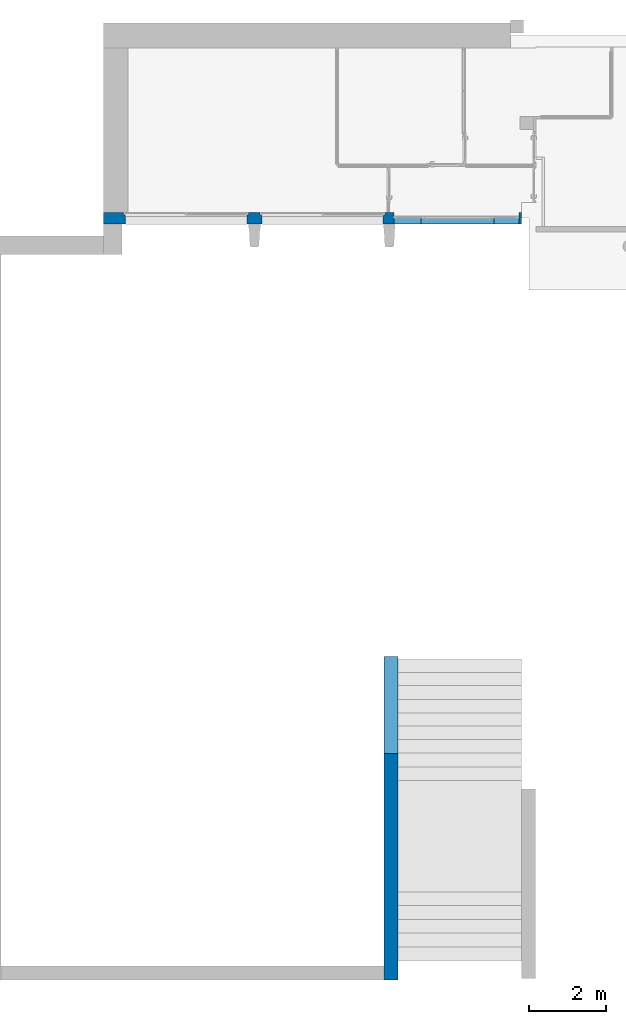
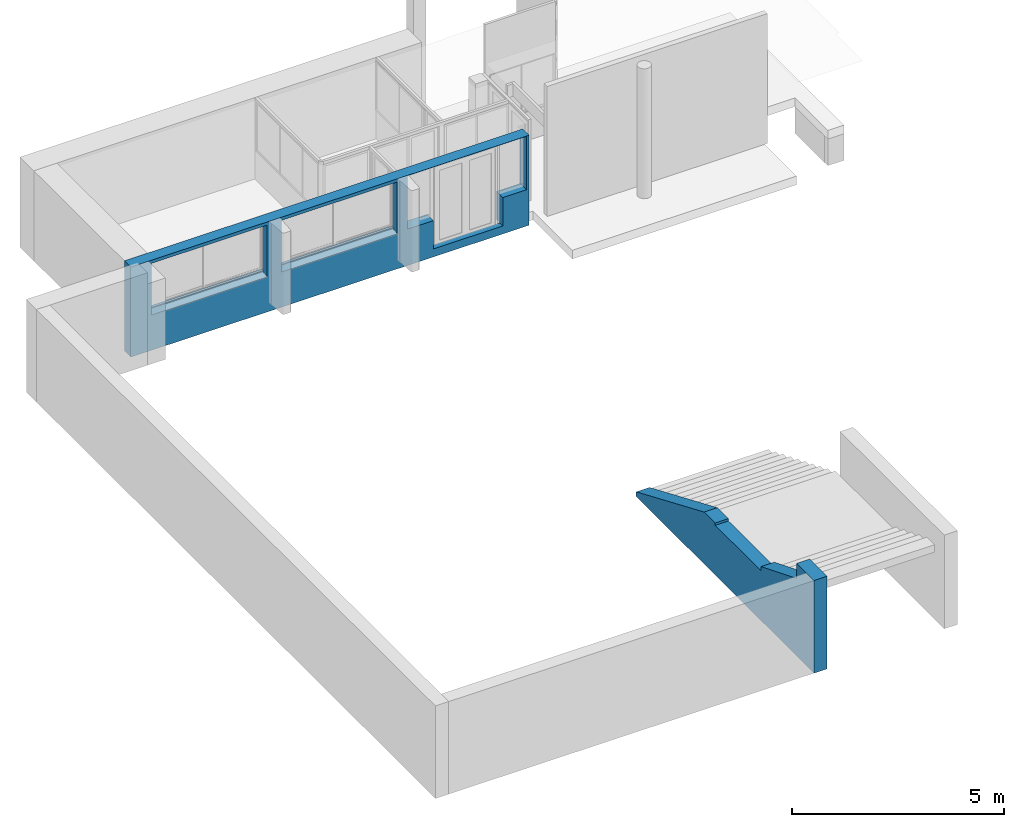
# One storey, part 10 of 19: 2 walls, 1 opening.
"""IFC4 building model written with IfcOpenShell, lengths in metres."""

from ifc_helpers import new_model, entity, si_unit, converted_unit, derived_unit, direction, frame, origin, place, context, subcontext, project, spatial, indexed_curve, outline, extrude, polygons, material, layer, layer_set, type_object, element, save


model = new_model("IFC4")

# Units and contexts
model_context = context("Model", 3, precision=1e-05, world=origin(), true_north=direction((6.12303176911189e-17, 1.0)))
body_context = subcontext(model_context, "Body", "Model", "MODEL_VIEW")
ifc_project = project(units=[si_unit("LENGTHUNIT", "METRE"), si_unit("AREAUNIT", "SQUARE_METRE"), si_unit("VOLUMEUNIT", "CUBIC_METRE"), converted_unit("PLANEANGLEUNIT", "DEGREE", entity("IfcRatioMeasure", 0.0174532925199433), si_unit("PLANEANGLEUNIT", "RADIAN"), dimensions=[0, 0, 0, 0, 0, 0, 0]), si_unit("MASSUNIT", "GRAM", prefix="KILO"), derived_unit("MASSDENSITYUNIT", [(si_unit("MASSUNIT", "GRAM", prefix="KILO"), 1), (si_unit("LENGTHUNIT", "METRE"), -3)]), derived_unit("MOMENTOFINERTIAUNIT", [(si_unit("LENGTHUNIT", "METRE"), 4)]), si_unit("TIMEUNIT", "SECOND"), si_unit("FREQUENCYUNIT", "HERTZ"), si_unit("THERMODYNAMICTEMPERATUREUNIT", "DEGREE_CELSIUS"), derived_unit("THERMALTRANSMITTANCEUNIT", [(si_unit("MASSUNIT", "GRAM", prefix="KILO"), 1), (si_unit("THERMODYNAMICTEMPERATUREUNIT", "KELVIN"), -1), (si_unit("TIMEUNIT", "SECOND"), -3)]), derived_unit("VOLUMETRICFLOWRATEUNIT", [(si_unit("LENGTHUNIT", "METRE"), 3), (si_unit("TIMEUNIT", "SECOND"), -1)]), si_unit("ELECTRICCURRENTUNIT", "AMPERE"), si_unit("ELECTRICVOLTAGEUNIT", "VOLT"), si_unit("POWERUNIT", "WATT"), si_unit("FORCEUNIT", "NEWTON", prefix="KILO"), si_unit("ILLUMINANCEUNIT", "LUX"), si_unit("LUMINOUSFLUXUNIT", "LUMEN"), si_unit("LUMINOUSINTENSITYUNIT", "CANDELA"), derived_unit("USERDEFINED", [(si_unit("MASSUNIT", "GRAM", prefix="KILO"), -1), (si_unit("LENGTHUNIT", "METRE"), -2), (si_unit("TIMEUNIT", "SECOND"), 3), (si_unit("LUMINOUSFLUXUNIT", "LUMEN"), 1)]), derived_unit("LINEARVELOCITYUNIT", [(si_unit("LENGTHUNIT", "METRE"), 1), (si_unit("TIMEUNIT", "SECOND"), -1)]), si_unit("PRESSUREUNIT", "PASCAL"), derived_unit("USERDEFINED", [(si_unit("LENGTHUNIT", "METRE"), -2), (si_unit("MASSUNIT", "GRAM", prefix="KILO"), 1), (si_unit("TIMEUNIT", "SECOND"), -2)]), derived_unit("LINEARFORCEUNIT", [(si_unit("MASSUNIT", "GRAM", prefix="KILO"), 1), (si_unit("LENGTHUNIT", "METRE"), 1), (si_unit("TIMEUNIT", "SECOND"), -2), (si_unit("LENGTHUNIT", "METRE"), -1)]), derived_unit("PLANARFORCEUNIT", [(si_unit("MASSUNIT", "GRAM", prefix="KILO"), 1), (si_unit("LENGTHUNIT", "METRE"), 1), (si_unit("TIMEUNIT", "SECOND"), -2), (si_unit("LENGTHUNIT", "METRE"), -2)])], contexts=[model_context])

# Site, building, storey
site_placement = place(None, origin())
site = spatial("IfcSite", under=ifc_project, at=site_placement, Name="Default", CompositionType="ELEMENT")
building_placement = place(site_placement, origin())
building = spatial("IfcBuilding", under=site, at=building_placement, Name="HOTEL CONSULAIRE BOULOGNE SUR MER", CompositionType="ELEMENT")
storey_placement = place(building_placement, frame((0.0, 0.0, -4.01003075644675)))
storey = spatial("IfcBuildingStorey", under=building, at=storey_placement, Name="SS2", CompositionType="ELEMENT", Elevation=-4.01003075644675)

# Wall
ifc_material = material(Name="Mur par défaut", Category="Divers")
ifc_layer_1 = layer(ifc_material, 0.3, Name="Mur par défaut", Category="Divers")
ifc_layer_set_1 = layer_set([ifc_layer_1], Name="Mur de base:Générique - Ext. 300 mm")
wall_type_1 = type_object("IfcWallType", Name="Mur de base:Générique - Ext. 300 mm", PredefinedType="NOTDEFINED", material=ifc_layer_set_1)
wall_1_placement = place(storey_placement, frame((-24.6922313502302, -14.8875756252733, -0.25)))
element("IfcWall", 1, at=wall_1_placement, inside=storey, type_object=wall_type_1, material=ifc_layer_set_1, Name="Mur de base:Générique - Ext. 300 mm", ObjectType="Mur de base:Générique - Ext. 300 mm", PredefinedType="NOTDEFINED", context=body_context, shape_type="Tessellation", body=[
    polygons([(8.23788801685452, 0.0, 0.25), (0.315000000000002, 2.16573425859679e-15, 0.25), (0.315000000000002, 0.150000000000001, 0.25), (0.63, 0.150000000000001, 0.25), (7.34545258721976, 0.150000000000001, 0.25), (7.41545258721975, 0.150000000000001, 0.25), (8.23788801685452, 0.150000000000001, 0.25), (9.0570659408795e-16, -0.149999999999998, 0.0), (10.8468816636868, -0.149999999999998, 0.0), (10.8468816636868, -0.149999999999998, 2.59114570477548), (0.480378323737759, -0.149999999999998, 2.59114570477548), (0.000378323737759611, -0.149999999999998, 2.59114570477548), (9.0570659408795e-16, -0.149999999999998, 2.59114570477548), (7.52745258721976, -0.149999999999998, 1.04643221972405), (7.52745258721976, -0.149999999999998, 2.58), (10.7734525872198, -0.149999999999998, 2.58), (10.7734525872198, -0.149999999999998, 1.04643221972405), (10.1278816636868, -0.149999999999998, 1.04643221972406), (10.1278816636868, -0.149999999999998, 0.23), (8.23788801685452, -0.149999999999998, 0.23), (8.23788801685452, -0.149999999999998, 1.04643221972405), (3.71437832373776, -0.149999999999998, 2.5), (3.71437832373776, -0.149999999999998, 1.01187706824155), (0.564378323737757, -0.149999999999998, 1.01187706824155), (0.564378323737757, -0.149999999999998, 2.5), (7.25386451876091, -0.149999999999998, 2.5), (7.25386451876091, -0.149999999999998, 1.01187706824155), (4.10386451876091, -0.149999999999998, 1.01187706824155), (4.10386451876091, -0.149999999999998, 2.5), (-6.29042011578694e-17, 0.150000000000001, 2.59114570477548), (0.63, 0.150000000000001, 2.59114570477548), (7.34545258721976, 0.150000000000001, 2.59114570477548), (7.41545258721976, 0.150000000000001, 2.59114570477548), (10.8468816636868, 0.150000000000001, 2.59114570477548), (10.8468816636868, 0.150000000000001, 0.25), (10.1278816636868, 0.150000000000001, 0.25), (10.1278816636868, 0.150000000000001, 1.04643221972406), (10.7734525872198, 0.150000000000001, 1.04643221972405), (10.7734525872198, 0.150000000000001, 2.58), (7.52745258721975, 0.150000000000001, 2.58), (7.52745258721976, 0.150000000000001, 1.04643221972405), (8.23788801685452, 0.150000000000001, 1.04643221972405), (0.315000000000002, 0.150000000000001, 0.0), (-6.29042011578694e-17, 0.150000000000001, 0.0), (0.514378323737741, 0.150000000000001, 1.05), (3.76437832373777, 0.150000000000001, 1.05), (3.76437832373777, 0.150000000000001, 2.55000000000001), (0.514378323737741, 0.150000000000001, 2.55000000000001), (4.05386451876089, 0.150000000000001, 1.05), (7.30386451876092, 0.150000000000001, 1.05), (7.30386451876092, 0.150000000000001, 2.55000000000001), (4.05386451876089, 0.150000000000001, 2.55000000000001), (0.315000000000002, 2.16573425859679e-15, 0.0), (10.8468816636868, 0.0, 0.0), (10.8468816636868, 2.16573425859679e-15, 0.25), (10.1278816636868, 2.16573425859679e-15, 0.25), (10.1278816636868, 0.0, 0.23), (8.23788801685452, 2.16573425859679e-15, 0.23), (3.71437832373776, 0.0700000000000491, 1.05), (3.71437832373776, 0.0700000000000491, 1.035), (3.71437832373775, 0.0500000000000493, 2.5), (3.71437832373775, 0.0500000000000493, 1.05), (0.564378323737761, 0.0700000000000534, 1.035), (0.564378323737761, 0.0700000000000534, 1.05), (0.564378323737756, 0.0500000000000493, 1.05), (0.564378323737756, 0.0500000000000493, 2.5), (3.72437832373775, 0.0500000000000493, 1.05), (3.72437832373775, 0.0800000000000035, 1.05), (3.76437832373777, 0.0800000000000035, 1.05), (0.514378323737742, 0.0800000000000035, 1.05), (0.554378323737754, 0.0800000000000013, 1.05), (0.554378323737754, 0.0500000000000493, 1.05), (3.76437832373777, 0.0800000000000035, 2.55000000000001), (3.72437832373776, 0.0800000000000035, 2.51), (0.554378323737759, 0.0800000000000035, 2.51), (0.514378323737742, 0.0800000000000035, 2.55000000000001), (3.72437832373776, 0.0500000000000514, 2.51), (0.554378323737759, 0.0500000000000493, 2.51), (7.25386451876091, 0.0700000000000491, 1.05), (7.25386451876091, 0.0700000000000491, 1.035), (7.25386451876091, 0.0500000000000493, 2.5), (7.25386451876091, 0.0500000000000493, 1.05), (4.10386451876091, 0.0700000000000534, 1.035), (4.10386451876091, 0.0700000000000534, 1.05), (4.10386451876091, 0.0500000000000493, 1.05), (4.10386451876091, 0.0500000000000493, 2.5), (7.26386451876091, 0.0500000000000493, 1.05), (7.26386451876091, 0.0800000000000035, 1.05), (7.30386451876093, 0.0800000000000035, 1.05), (4.05386451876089, 0.0800000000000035, 1.05), (4.09386451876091, 0.0800000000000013, 1.05), (4.09386451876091, 0.0500000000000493, 1.05), (7.30386451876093, 0.0800000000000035, 2.55000000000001), (7.26386451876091, 0.0800000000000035, 2.51), (4.09386451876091, 0.0800000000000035, 2.51), (4.05386451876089, 0.0800000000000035, 2.55000000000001), (7.26386451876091, 0.0500000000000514, 2.51), (4.09386451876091, 0.0500000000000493, 2.51)], [[[6, 7, 1, 2, 3, 4, 5]], [[54, 9, 8, 44, 43, 53]], [[16, 15, 40, 39]], [[66, 61, 22, 25]], [[48, 47, 73, 76]], [[78, 75, 74, 77]], [[86, 81, 26, 29]], [[52, 51, 93, 96]], [[98, 95, 94, 97]], [[56, 36, 35, 55]], [[8, 9, 10, 11, 12, 13], [24, 25, 22, 23], [28, 29, 26, 27], [20, 21, 14, 15, 16, 17, 18, 19]], [[63, 60, 59, 64]], [[83, 80, 79, 84]], [[35, 36, 37, 38, 39, 40, 41, 42, 7, 6, 5, 4, 3, 43, 44, 30, 31, 32, 33, 34], [51, 52, 49, 50], [46, 47, 48, 45]], [[74, 75, 71, 70, 76, 73, 69, 68]], [[61, 66, 65, 72, 78, 77, 67, 62]], [[94, 95, 91, 90, 96, 93, 89, 88]], [[81, 86, 85, 92, 98, 97, 87, 82]], [[58, 57, 56, 55, 54, 53, 2, 1]], [[11, 10, 34, 33, 32, 31, 30, 13, 12]], [[18, 17, 38, 37]], [[14, 21, 42, 41]], [[59, 62, 67, 68, 69, 46, 45, 70, 71, 72, 65, 64]], [[79, 82, 87, 88, 89, 50, 49, 90, 91, 92, 85, 84]], [[20, 19, 57, 58]], [[55, 35, 34, 10, 9, 54]], [[14, 41, 40, 15]], [[1, 7, 42, 21, 20, 58]], [[63, 64, 65, 66, 25, 24]], [[45, 48, 76, 70]], [[72, 71, 75, 78]], [[83, 84, 85, 86, 29, 28]], [[49, 52, 96, 90]], [[92, 91, 95, 98]], [[2, 53, 43, 3]], [[16, 39, 38, 17]], [[36, 56, 57, 19, 18, 37]], [[62, 59, 60, 23, 22, 61]], [[47, 46, 69, 73]], [[77, 74, 68, 67]], [[82, 79, 80, 27, 26, 81]], [[51, 50, 89, 93]], [[97, 94, 88, 87]], [[30, 44, 8, 13]], [[63, 24, 23, 60]], [[83, 28, 27, 80]]], closed=True),
])

# Wall, opening
ifc_layer_2 = layer(ifc_material, 0.36, Name="Mur par défaut", Category="Divers")
ifc_layer_set_2 = layer_set([ifc_layer_2], Name="Mur de base:Générique - Ext. 360")
wall_type_2 = type_object("IfcWallType", Name="Mur de base:Générique - Ext. 360", PredefinedType="NOTDEFINED", material=ifc_layer_set_2)
wall_2_placement = place(storey_placement, frame((-17.2351075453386, -34.6491585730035, 0.0), z_axis=(0.0, 0.0, 1.0), x_axis=(0.0, 1.0, 0.0)))
wall_2 = element("IfcWall", 2, at=wall_2_placement, inside=storey, type_object=wall_type_2, material=ifc_layer_set_2, Name="Mur de base:Générique - Ext. 360", ObjectType="Mur de base:Générique - Ext. 360", PredefinedType="NOTDEFINED", context=body_context, shape_type="Tessellation", body=[
    polygons([(0.0, -0.179999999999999, 0.0), (8.387, -0.179999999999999, 0.0), (8.387, -0.179999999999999, 0.134239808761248), (5.18354743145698, -0.179999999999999, 1.49402474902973), (4.66054743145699, -0.179999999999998, 1.49402474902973), (4.66054743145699, -0.179999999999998, 1.43055398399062), (2.50454743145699, -0.179999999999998, 1.43055398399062), (2.50454743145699, -0.179999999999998, 1.54980517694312), (0.818, -0.179999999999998, 2.23121457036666), (0.818, -0.179999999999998, 2.66421457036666), (0.0, -0.179999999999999, 2.66421457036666), (0.0, 0.180000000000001, 0.0), (0.0, 0.180000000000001, 2.66421457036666), (0.36, 0.180000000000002, 2.66421457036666), (0.818, 0.180000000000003, 2.66421457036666), (0.818, 0.180000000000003, 2.23121457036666), (2.50454743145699, 0.180000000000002, 1.54980517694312), (2.50454743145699, 0.180000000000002, 1.43055398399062), (4.66054743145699, 0.180000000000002, 1.43055398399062), (4.66054743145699, 0.180000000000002, 1.49402474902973), (5.18354743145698, 0.180000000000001, 1.49402474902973), (8.387, 0.180000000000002, 0.134239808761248), (8.387, 0.180000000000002, 0.0), (0.36, 0.180000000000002, 0.0)], [[[9, 10, 11, 1, 2, 3, 4, 5, 6, 7, 8]], [[22, 23, 24, 12, 13, 14, 15, 16, 17, 18, 19, 20, 21]], [[13, 12, 1, 11]], [[6, 5, 20, 19]], [[2, 1, 12, 24, 23]], [[3, 2, 23, 22]], [[8, 7, 18, 17]], [[10, 9, 16, 15]], [[11, 10, 15, 14, 13]], [[5, 4, 21, 20]], [[7, 6, 19, 18]], [[4, 3, 22, 21]], [[9, 8, 17, 16]]], closed=True),
])
opening_placement = place(wall_2_placement, origin())
element("IfcOpeningElement", 3, at=opening_placement, cuts=wall_2, Name="Mur de base:Générique - Ext. 360", ObjectType="Opening", PredefinedType="OPENING", context=body_context, shape_type="SweptSolid", body=[
    extrude(outline(indexed_curve([(-2.15634620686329, -0.30643359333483), (2.36331623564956, -0.30643359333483), (2.2512078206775, 0.111801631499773), (0.445745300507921, 0.333310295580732), (0.414869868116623, 0.448495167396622), (-1.66761314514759, -0.109716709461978), (-1.65117987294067, -0.171023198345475), (-2.15634620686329, -0.30643359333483)], self_intersect=False)), frame((3.02139102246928, 0.180000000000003, 1.75634168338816), z_axis=(0.0, -1.0, 0.0), x_axis=(-0.965901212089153, 0.0, 0.258910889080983)), (0.0, 0.0, 1.0), 0.36),
])

save(model, "model.ifc")
